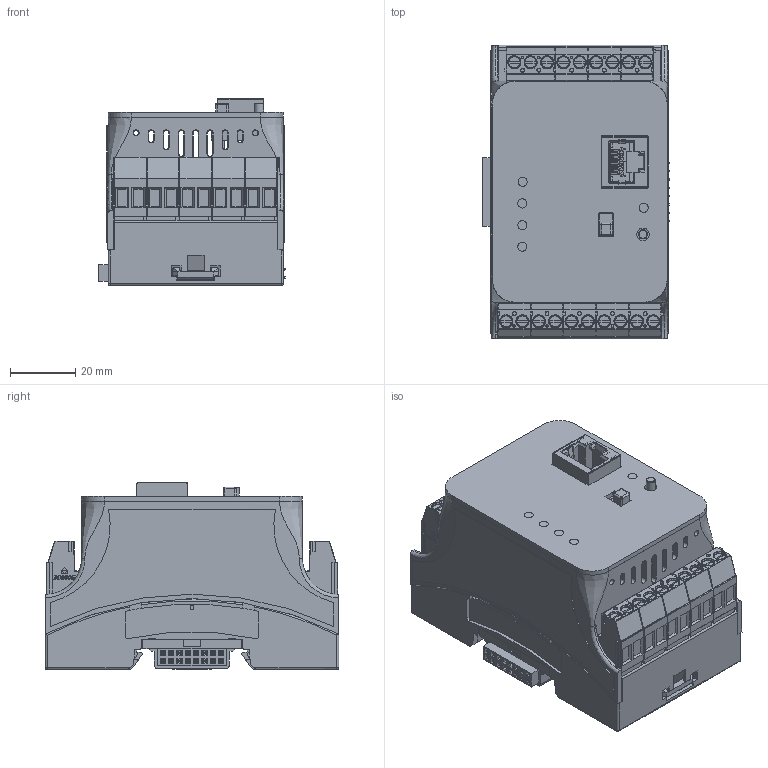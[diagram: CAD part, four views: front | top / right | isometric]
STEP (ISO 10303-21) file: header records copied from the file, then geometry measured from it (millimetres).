
FILE_DESCRIPTION(/* description */ (''),/* implementation_level */ '2;1');
FILE_NAME(/* name */ 'D:\WorkIMT\Project IMT\ИРИС-DIN\v2\!base\3D от Максима\MT.IRIS-DIN.BASE-2RS_TX.stp',/* time_stamp */ '2026-08-31T11:42:12+03:00',/* author */ ('admin'),/* organization */ (''),/* preprocessor_version */ 'ST-DEVELOPER v17.2',/* originating_system */ 'Autodesk Inventor 2019',/* authorisation */ '');
FILE_SCHEMA (('AUTOMOTIVE_DESIGN { 1 0 10303 214 3 1 1 }'));
Products named in the file (1): MT.IRIS-DIN.BASE.02
Bounding box: 57.13 x 89.74 x 57.15 mm (x, y, z)
Volume: 72065.5 mm3; surface area: 80536.3 mm2
Topology: 5 solids, 64 shells, 7811 faces, 21613 edges, 13990 vertices
Faces by surface type: plane 6490, cylinder 681, bspline 292, cone 164, torus 101, sphere 83
Full cylindrical faces by diameter (mm): 1.2 x18, 2.8 x1, 3.8 x1, 4.05 x19
Entity records: 271620 total; most frequent: CARTESIAN_POINT 65560, ORIENTED_EDGE 43072, DIRECTION 37842, EDGE_CURVE 21536, LINE 18168, VECTOR 18168, VERTEX_POINT 13990, AXIS2_PLACEMENT_3D 9837
